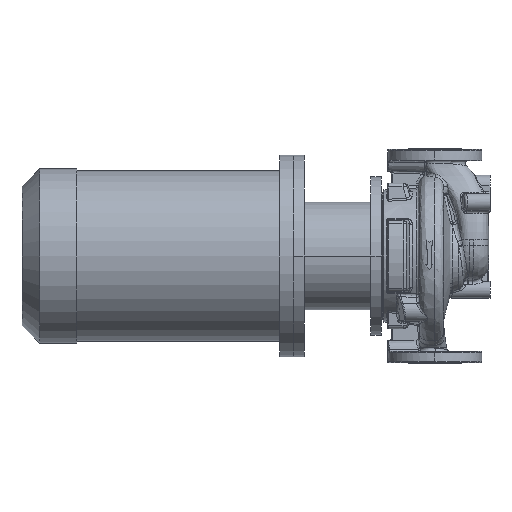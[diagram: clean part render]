
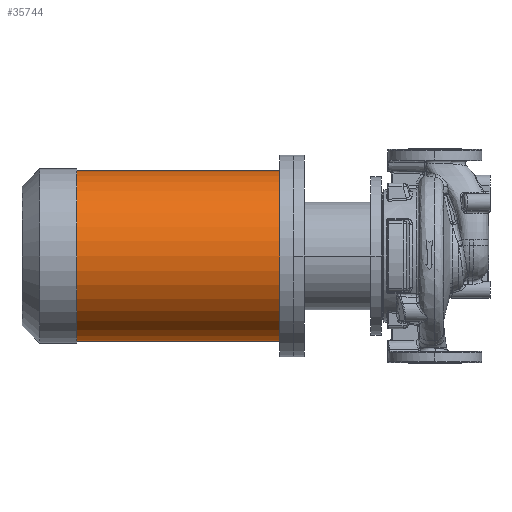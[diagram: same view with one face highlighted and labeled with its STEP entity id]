
A CAD part, left-side view. The second image highlights one B-rep face of the part: STEP entity #35744.
In plain terms, the highlighted cylindrical face has radius 126.5 mm (diameter 253 mm), a partial arc.
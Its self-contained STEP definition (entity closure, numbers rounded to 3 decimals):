
#2116 = CARTESIAN_POINT ( 'NONE',  ( 0., 230.3, 0. ) ) ;
#2464 = CARTESIAN_POINT ( 'NONE',  ( 0., 210.3, -126.5 ) ) ;
#3212 = DIRECTION ( 'NONE',  ( 0., -1., 0. ) ) ;
#5620 = DIRECTION ( 'NONE',  ( 0., 0., -1. ) ) ;
#9593 = CARTESIAN_POINT ( 'NONE',  ( 0., 532.3, 126.5 ) ) ;
#10206 = EDGE_CURVE ( 'NONE', #13838, #25751, #59758, .T. ) ;
#10696 = DIRECTION ( 'NONE',  ( 0., -1., 0. ) ) ;
#11766 = CARTESIAN_POINT ( 'NONE',  ( 0., 210.3, 0. ) ) ;
#13435 = CARTESIAN_POINT ( 'NONE',  ( 0., 230.3, -126.5 ) ) ;
#13838 = VERTEX_POINT ( 'NONE', #9593 ) ;
#16752 = LINE ( 'NONE', #2464, #17627 ) ;
#17627 = VECTOR ( 'NONE', #3212, 1000. ) ;
#19063 = CARTESIAN_POINT ( 'NONE',  ( 0., 532.3, 0. ) ) ;
#19375 = ORIENTED_EDGE ( 'NONE', *, *, #10206, .T. ) ;
#19831 = FACE_OUTER_BOUND ( 'NONE', #71173, .T. ) ;
#20194 = CARTESIAN_POINT ( 'NONE',  ( 0., 210.3, 126.5 ) ) ;
#22817 = DIRECTION ( 'NONE',  ( 0., -1., 0. ) ) ;
#24692 = DIRECTION ( 'NONE',  ( 0., 0., -1. ) ) ;
#25450 = DIRECTION ( 'NONE',  ( 0., -1., 0. ) ) ;
#25751 = VERTEX_POINT ( 'NONE', #56464 ) ;
#28209 = VECTOR ( 'NONE', #10696, 1000. ) ;
#29001 = CYLINDRICAL_SURFACE ( 'NONE', #60488, 126.5 ) ;
#31471 = AXIS2_PLACEMENT_3D ( 'NONE', #19063, #54055, #24692 ) ;
#35744 = ADVANCED_FACE ( 'NONE', ( #19831 ), #29001, .T. ) ;
#37062 = DIRECTION ( 'NONE',  ( 0., 0., -1. ) ) ;
#42015 = EDGE_CURVE ( 'NONE', #13838, #66852, #45715, .T. ) ;
#45715 = LINE ( 'NONE', #20194, #28209 ) ;
#47791 = ORIENTED_EDGE ( 'NONE', *, *, #53666, .F. ) ;
#47828 = CARTESIAN_POINT ( 'NONE',  ( 0., 230.3, 126.5 ) ) ;
#48258 = ORIENTED_EDGE ( 'NONE', *, *, #48299, .T. ) ;
#48299 = EDGE_CURVE ( 'NONE', #25751, #48636, #16752, .T. ) ;
#48636 = VERTEX_POINT ( 'NONE', #13435 ) ;
#48658 = CIRCLE ( 'NONE', #53388, 126.5 ) ;
#53388 = AXIS2_PLACEMENT_3D ( 'NONE', #2116, #25450, #37062 ) ;
#53666 = EDGE_CURVE ( 'NONE', #66852, #48636, #48658, .T. ) ;
#54055 = DIRECTION ( 'NONE',  ( 0., -1., 0. ) ) ;
#56464 = CARTESIAN_POINT ( 'NONE',  ( 0., 532.3, -126.5 ) ) ;
#57524 = ORIENTED_EDGE ( 'NONE', *, *, #42015, .F. ) ;
#59758 = CIRCLE ( 'NONE', #31471, 126.5 ) ;
#60488 = AXIS2_PLACEMENT_3D ( 'NONE', #11766, #22817, #5620 ) ;
#66852 = VERTEX_POINT ( 'NONE', #47828 ) ;
#71173 = EDGE_LOOP ( 'NONE', ( #57524, #19375, #48258, #47791 ) ) ;
